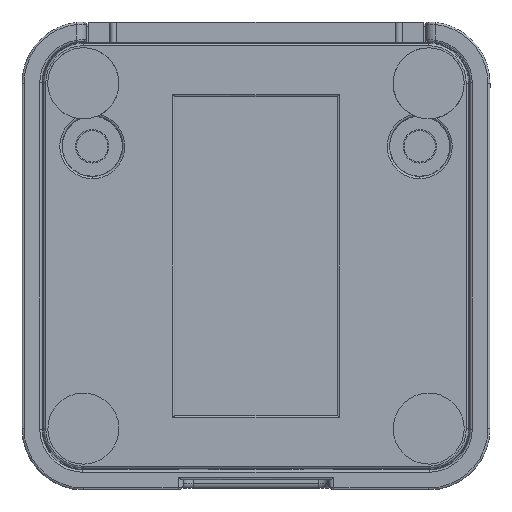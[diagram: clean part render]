
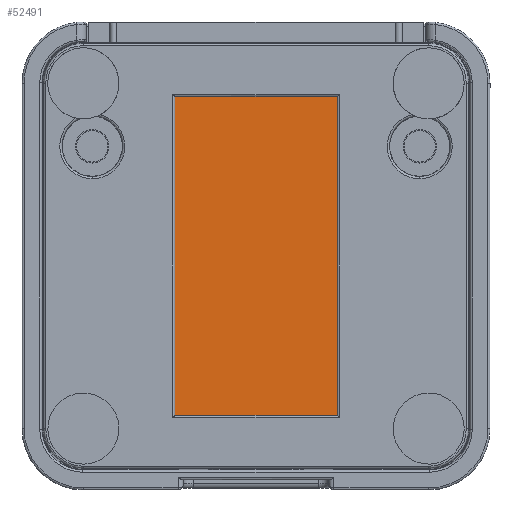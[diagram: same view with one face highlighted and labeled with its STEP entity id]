
A CAD part, front view. The second image highlights one B-rep face of the part: STEP entity #52491.
In plain terms, the highlighted planar face has unit normal (0, -1, 0).
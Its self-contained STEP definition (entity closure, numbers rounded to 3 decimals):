
#3714 = DIRECTION ( 'NONE',  ( 1., 0., 0. ) ) ;
#5140 = DIRECTION ( 'NONE',  ( -1., 0., 0. ) ) ;
#14293 = VECTOR ( 'NONE', #68500, 1000. ) ;
#22899 = CARTESIAN_POINT ( 'NONE',  ( 46.704, 18.085, 14.525 ) ) ;
#24059 = CARTESIAN_POINT ( 'NONE',  ( 38.704, 18.085, 30.225 ) ) ;
#38050 = VERTEX_POINT ( 'NONE', #121816 ) ;
#43285 = VERTEX_POINT ( 'NONE', #46827 ) ;
#45747 = CARTESIAN_POINT ( 'NONE',  ( 30.704, 18.085, 14.525 ) ) ;
#46827 = CARTESIAN_POINT ( 'NONE',  ( 30.704, 18.085, 14.525 ) ) ;
#51674 = VERTEX_POINT ( 'NONE', #155692 ) ;
#52211 = CARTESIAN_POINT ( 'NONE',  ( 30.704, 18.085, 14.525 ) ) ;
#52491 = ADVANCED_FACE ( 'NONE', ( #141453 ), #80465, .F. ) ;
#53022 = VERTEX_POINT ( 'NONE', #166800 ) ;
#66226 = DIRECTION ( 'NONE',  ( 0., 0., 1. ) ) ;
#67354 = ORIENTED_EDGE ( 'NONE', *, *, #182043, .T. ) ;
#68500 = DIRECTION ( 'NONE',  ( 0., 0., -1. ) ) ;
#68783 = LINE ( 'NONE', #22899, #98117 ) ;
#72553 = ORIENTED_EDGE ( 'NONE', *, *, #123692, .T. ) ;
#74005 = CARTESIAN_POINT ( 'NONE',  ( 30.704, 18.085, 45.925 ) ) ;
#80465 = PLANE ( 'NONE',  #166244 ) ;
#82335 = DIRECTION ( 'NONE',  ( 0., 1., 0. ) ) ;
#89018 = ORIENTED_EDGE ( 'NONE', *, *, #142989, .T. ) ;
#93959 = EDGE_CURVE ( 'NONE', #38050, #53022, #146386, .T. ) ;
#96135 = LINE ( 'NONE', #52211, #14293 ) ;
#96438 = DIRECTION ( 'NONE',  ( 0., 0., 1. ) ) ;
#98117 = VECTOR ( 'NONE', #96438, 1000. ) ;
#109537 = VECTOR ( 'NONE', #3714, 1000. ) ;
#121816 = CARTESIAN_POINT ( 'NONE',  ( 46.704, 18.085, 45.925 ) ) ;
#123692 = EDGE_CURVE ( 'NONE', #51674, #38050, #68783, .T. ) ;
#141453 = FACE_OUTER_BOUND ( 'NONE', #146664, .T. ) ;
#142989 = EDGE_CURVE ( 'NONE', #43285, #51674, #178448, .T. ) ;
#144997 = ORIENTED_EDGE ( 'NONE', *, *, #93959, .T. ) ;
#145108 = VECTOR ( 'NONE', #5140, 1000. ) ;
#146386 = LINE ( 'NONE', #74005, #145108 ) ;
#146664 = EDGE_LOOP ( 'NONE', ( #72553, #144997, #67354, #89018 ) ) ;
#155692 = CARTESIAN_POINT ( 'NONE',  ( 46.704, 18.085, 14.525 ) ) ;
#166244 = AXIS2_PLACEMENT_3D ( 'NONE', #24059, #82335, #66226 ) ;
#166800 = CARTESIAN_POINT ( 'NONE',  ( 30.704, 18.085, 45.925 ) ) ;
#178448 = LINE ( 'NONE', #45747, #109537 ) ;
#182043 = EDGE_CURVE ( 'NONE', #53022, #43285, #96135, .T. ) ;
